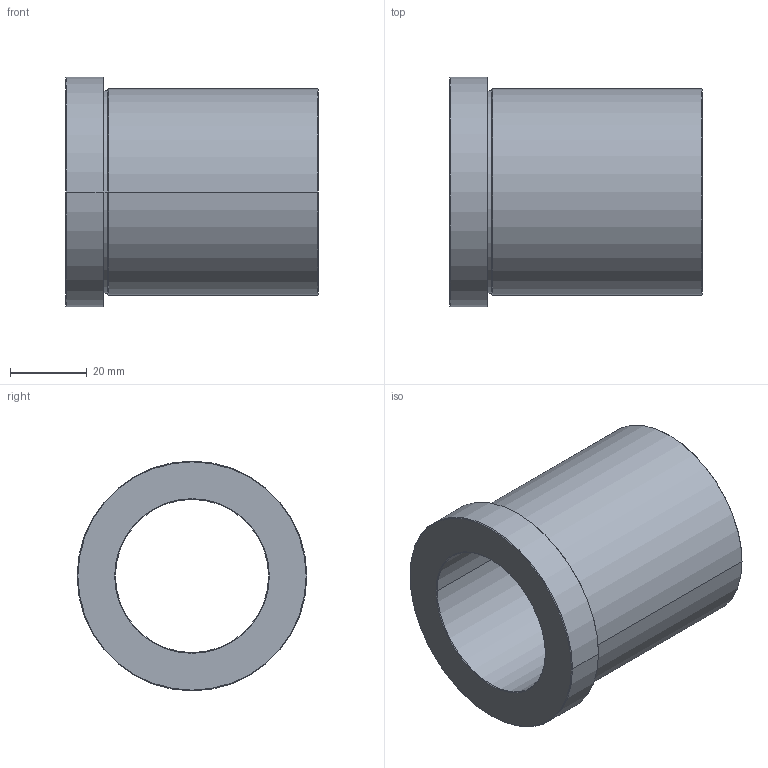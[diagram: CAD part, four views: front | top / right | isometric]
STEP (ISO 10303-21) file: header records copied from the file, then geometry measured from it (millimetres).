
FILE_DESCRIPTION (( 'STEP AP214' ), '1' );
FILE_NAME ('R03_066x40.STEP', '2015-03-05T14:47:56', ( 'TGL' ), ( '' ), 'SwSTEP 2.0', 'SolidWorks 2011', '' );
FILE_SCHEMA (( 'AUTOMOTIVE_DESIGN' ));
Length unit declared in the file: millimetre
Products named in the file (1): R03_066x40
Bounding box: 66 x 60 x 60 mm (x, y, z)
Volume: 72551 mm3; surface area: 22593 mm2
Topology: 1 solids, 1 shells, 24 faces, 48 edges, 28 vertices
Faces by surface type: cone 10, cylinder 8, plane 4, torus 2
Entity records: 730 total; most frequent: DIRECTION 128, CARTESIAN_POINT 101, ORIENTED_EDGE 96, AXIS2_PLACEMENT_3D 55, EDGE_CURVE 48, CIRCLE 30, VERTEX_POINT 28, EDGE_LOOP 28
